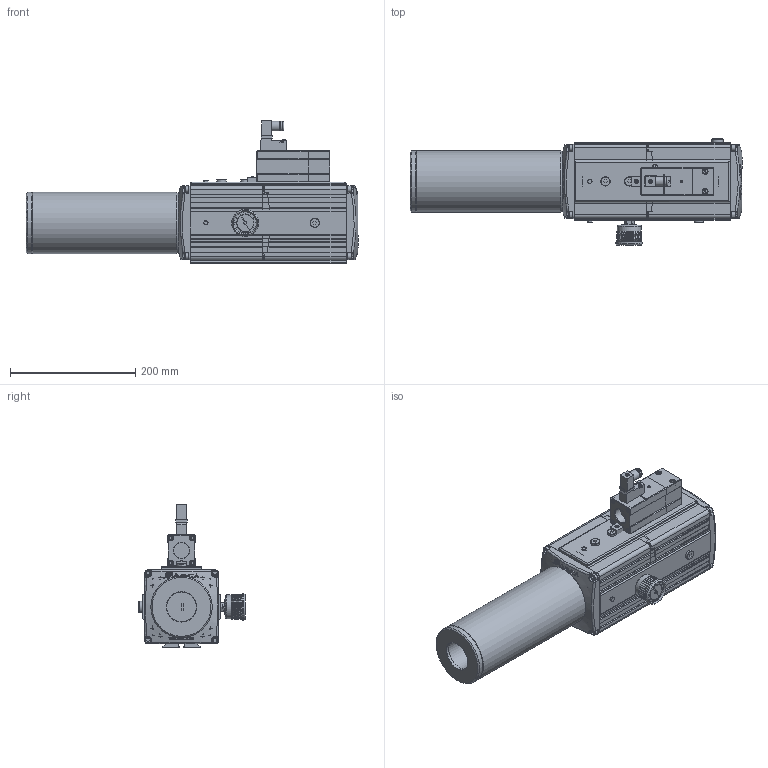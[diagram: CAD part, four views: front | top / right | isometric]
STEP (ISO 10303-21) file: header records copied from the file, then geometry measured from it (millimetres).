
FILE_DESCRIPTION( ( 'Unknown' ), '1' );
FILE_NAME( 'C:/Documents and Settings/Administrator/官帕 拳搁/3D Dimension/MPM303X5-03S-A3-DN.stp', 'Unknown', ( 'Unknown' ), ( 'Unknown' ), 'PSStep 10.0', 'Unknown', ' ' );
FILE_SCHEMA( ( 'AUTOMOTIVE_DESIGN { 1 0 10303 214 1 1 1 1 }' ) );
Length unit declared in the file: millimetre
Products named in the file (21): Assem1; VMS34-B(DIM); SILENCER_1_0; COVER_1_0; ELEMENT_1_0; SPONGE_1_0; END CAP_1_0; BODY-A(ASV)(DIM); BODY-B(dim); DIN Valve_1; M6-Bolt_4_0; END CAP-212_4_0; VTP-M5_4_0; red_4_0; VTP18_4_0; VTP14_4_0; Vacuum Gauge_4_0; END CAP-2_0_0; Body(re1)(dim)_0; VTP18_11; VTP-M5_11
Bounding box: 530 x 169.5 x 228.6 mm (x, y, z)
Volume: 12914094.8 mm3; surface area: 1910348.9 mm2
Topology: 58 solids, 64 shells, 4209 faces, 10427 edges, 6706 vertices
Faces by surface type: plane 2545, cylinder 1048, cone 269, bspline 99, sphere 96, extrusion 84, torus 64, revolution 4
Full cylindrical faces by diameter (mm): 0.274 x2, 0.884 x4, 1.008 x9, 1.5 x6, 1.8 x6, 2.3 x6, 2.5 x3, 3 x6, 3.2 x6, 3.4 x12, 4 x6, 4.075 x4, 4.2 x20, 4.5 x12, 4.552 x4, 5 x3, 5.2 x6, 5.5 x9, 6 x9, 6.337 x4, 6.5 x16, 6.535 x3, 6.8 x8, 7 x12, 7.2 x3, 8 x12, 8.5 x6, 8.8 x10, 9.5 x6, 9.6 x2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
Entity records: 74148 total; most frequent: CARTESIAN_POINT 16131, DIRECTION 8792, ORIENTED_EDGE 8548, EDGE_CURVE 4274, AXIS2_PLACEMENT_3D 3051, VERTEX_POINT 2881, VECTOR 2688, LINE 2646
